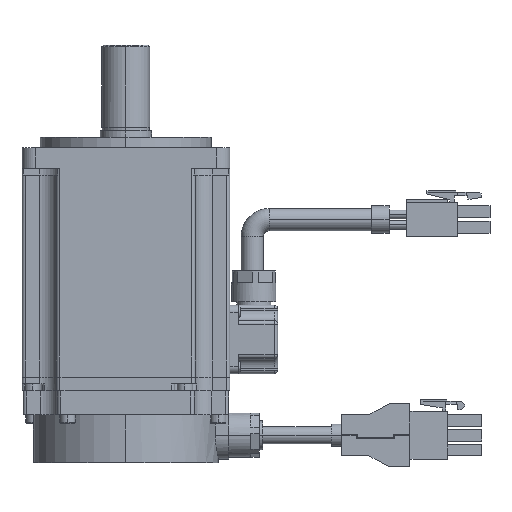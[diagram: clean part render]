
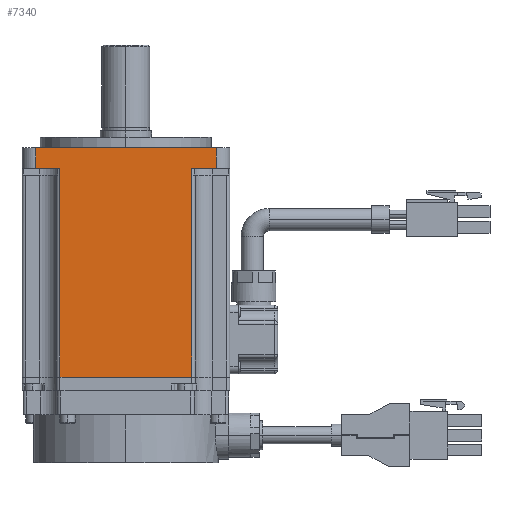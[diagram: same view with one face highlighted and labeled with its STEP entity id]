
A CAD part, left-side view. The second image highlights one B-rep face of the part: STEP entity #7340.
In plain terms, the highlighted planar face has unit normal (-1, 0, 0).
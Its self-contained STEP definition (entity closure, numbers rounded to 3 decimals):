
#82 = AXIS2_PLACEMENT_3D ( 'NONE', #578, #20681, #7174 ) ;
#442 = ORIENTED_EDGE ( 'NONE', *, *, #17533, .T. ) ;
#468 = PLANE ( 'NONE',  #82 ) ;
#557 = VECTOR ( 'NONE', #11611, 1000. ) ;
#578 = CARTESIAN_POINT ( 'NONE',  ( -30.35, -30.35, 6. ) ) ;
#1062 = VECTOR ( 'NONE', #2863, 1000. ) ;
#1132 = EDGE_CURVE ( 'NONE', #17118, #7756, #11213, .T. ) ;
#1298 = DIRECTION ( 'NONE',  ( 0., 1., 0. ) ) ;
#1394 = VECTOR ( 'NONE', #18218, 1000. ) ;
#1678 = EDGE_CURVE ( 'NONE', #15276, #7756, #4821, .T. ) ;
#2281 = VECTOR ( 'NONE', #1298, 1000. ) ;
#2325 = ORIENTED_EDGE ( 'NONE', *, *, #5332, .T. ) ;
#2419 = VECTOR ( 'NONE', #5571, 1000. ) ;
#2468 = CARTESIAN_POINT ( 'NONE',  ( -30.35, -19.25, 0. ) ) ;
#2490 = CARTESIAN_POINT ( 'NONE',  ( -30.35, -30.35, 0. ) ) ;
#2863 = DIRECTION ( 'NONE',  ( 0., 0., 1. ) ) ;
#4531 = VERTEX_POINT ( 'NONE', #12745 ) ;
#4586 = CARTESIAN_POINT ( 'NONE',  ( -30.35, 19.25, 6. ) ) ;
#4821 = LINE ( 'NONE', #11521, #1394 ) ;
#5158 = EDGE_CURVE ( 'NONE', #6895, #17118, #16010, .T. ) ;
#5332 = EDGE_CURVE ( 'NONE', #15276, #10727, #8211, .T. ) ;
#5371 = VECTOR ( 'NONE', #11078, 1000. ) ;
#5571 = DIRECTION ( 'NONE',  ( 0., -1., 0. ) ) ;
#6895 = VERTEX_POINT ( 'NONE', #2468 ) ;
#7174 = DIRECTION ( 'NONE',  ( 0., 0., -1. ) ) ;
#7282 = FACE_OUTER_BOUND ( 'NONE', #21018, .T. ) ;
#7340 = ADVANCED_FACE ( 'NONE', ( #7282 ), #468, .F. ) ;
#7551 = ORIENTED_EDGE ( 'NONE', *, *, #20127, .T. ) ;
#7567 = ORIENTED_EDGE ( 'NONE', *, *, #13491, .F. ) ;
#7756 = VERTEX_POINT ( 'NONE', #13961 ) ;
#8115 = LINE ( 'NONE', #15942, #2281 ) ;
#8122 = CARTESIAN_POINT ( 'NONE',  ( -30.35, 26.35, 6. ) ) ;
#8211 = LINE ( 'NONE', #9530, #9286 ) ;
#9286 = VECTOR ( 'NONE', #12831, 1000. ) ;
#9446 = DIRECTION ( 'NONE',  ( 0., -1., 0. ) ) ;
#9530 = CARTESIAN_POINT ( 'NONE',  ( -30.35, 26.35, 6. ) ) ;
#10727 = VERTEX_POINT ( 'NONE', #10775 ) ;
#10760 = CARTESIAN_POINT ( 'NONE',  ( -30.35, -26.35, 0. ) ) ;
#10775 = CARTESIAN_POINT ( 'NONE',  ( -30.35, 26.35, 0. ) ) ;
#11078 = DIRECTION ( 'NONE',  ( 0., 0., 1. ) ) ;
#11213 = LINE ( 'NONE', #17908, #1062 ) ;
#11521 = CARTESIAN_POINT ( 'NONE',  ( -30.35, -30.35, 6. ) ) ;
#11611 = DIRECTION ( 'NONE',  ( 0., 0., -1. ) ) ;
#11998 = ORIENTED_EDGE ( 'NONE', *, *, #5158, .T. ) ;
#12717 = ORIENTED_EDGE ( 'NONE', *, *, #1678, .F. ) ;
#12745 = CARTESIAN_POINT ( 'NONE',  ( -30.35, -19.25, -61. ) ) ;
#12799 = EDGE_CURVE ( 'NONE', #4531, #6895, #20851, .T. ) ;
#12831 = DIRECTION ( 'NONE',  ( 0., 0., -1. ) ) ;
#12931 = LINE ( 'NONE', #4586, #557 ) ;
#13491 = EDGE_CURVE ( 'NONE', #4531, #15809, #8115, .T. ) ;
#13921 = VERTEX_POINT ( 'NONE', #16222 ) ;
#13961 = CARTESIAN_POINT ( 'NONE',  ( -30.35, -26.35, 6. ) ) ;
#15083 = VECTOR ( 'NONE', #9446, 1000. ) ;
#15276 = VERTEX_POINT ( 'NONE', #8122 ) ;
#15809 = VERTEX_POINT ( 'NONE', #15840 ) ;
#15840 = CARTESIAN_POINT ( 'NONE',  ( -30.35, 19.25, -61. ) ) ;
#15942 = CARTESIAN_POINT ( 'NONE',  ( -30.35, -20.25, -61. ) ) ;
#16010 = LINE ( 'NONE', #2490, #2419 ) ;
#16222 = CARTESIAN_POINT ( 'NONE',  ( -30.35, 19.25, 0. ) ) ;
#17118 = VERTEX_POINT ( 'NONE', #10760 ) ;
#17533 = EDGE_CURVE ( 'NONE', #13921, #15809, #12931, .T. ) ;
#17908 = CARTESIAN_POINT ( 'NONE',  ( -30.35, -26.35, 6. ) ) ;
#18180 = CARTESIAN_POINT ( 'NONE',  ( -30.35, -19.25, 6. ) ) ;
#18218 = DIRECTION ( 'NONE',  ( 0., -1., 0. ) ) ;
#19190 = ORIENTED_EDGE ( 'NONE', *, *, #12799, .T. ) ;
#19786 = LINE ( 'NONE', #21097, #15083 ) ;
#19898 = ORIENTED_EDGE ( 'NONE', *, *, #1132, .T. ) ;
#20127 = EDGE_CURVE ( 'NONE', #10727, #13921, #19786, .T. ) ;
#20681 = DIRECTION ( 'NONE',  ( 1., 0., 0. ) ) ;
#20851 = LINE ( 'NONE', #18180, #5371 ) ;
#21018 = EDGE_LOOP ( 'NONE', ( #12717, #2325, #7551, #442, #7567, #19190, #11998, #19898 ) ) ;
#21097 = CARTESIAN_POINT ( 'NONE',  ( -30.35, -30.35, 0. ) ) ;
